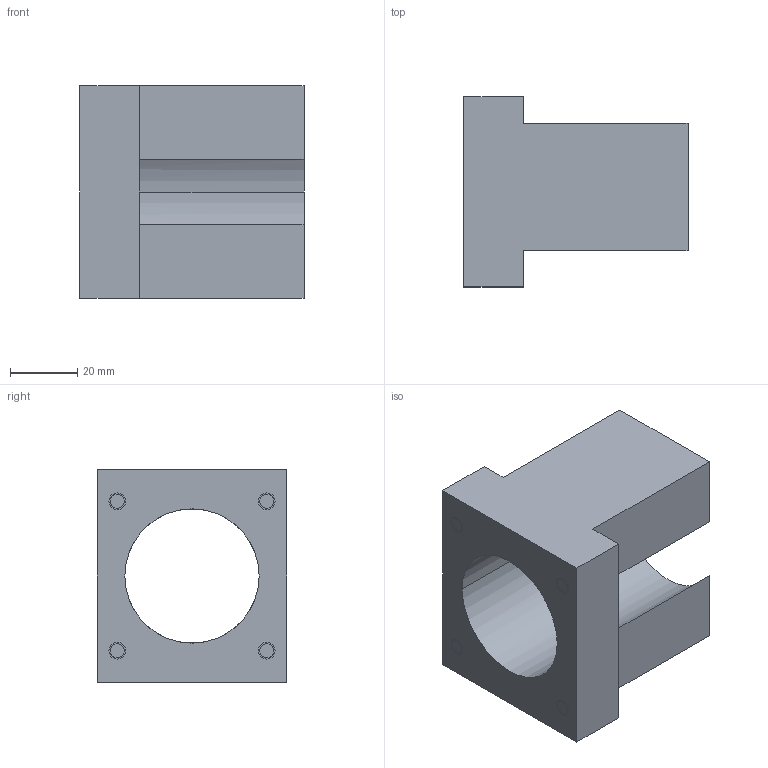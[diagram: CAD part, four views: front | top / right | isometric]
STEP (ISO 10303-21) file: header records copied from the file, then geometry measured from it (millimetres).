
FILE_DESCRIPTION((''),'2;1');
FILE_NAME('ZP200-HDY55','2002-07-22T',('FKrakosh'),(''),'PRO/ENGINEER BY PARAMETRIC TECHNOLOGY CORPORATION, 2000420','PRO/ENGINEER BY PARAMETRIC TECHNOLOGY CORPORATION, 2000420','');
FILE_SCHEMA(('CONFIG_CONTROL_DESIGN'));
Length unit declared in the file: inch
Products named in the file (1): ZP200-HDY55
Bounding box: 66.8 x 56.64 x 63.5 mm (x, y, z)
Volume: 98287 mm3; surface area: 26745.1 mm2
Topology: 1 solids, 5 shells, 45 faces, 100 edges, 60 vertices
Faces by surface type: plane 19, cylinder 18, cone 8
Entity records: 1233 total; most frequent: DIRECTION 222, CARTESIAN_POINT 198, ORIENTED_EDGE 184, EDGE_CURVE 92, AXIS2_PLACEMENT_3D 84, VERTEX_POINT 60, VECTOR 54, LINE 54
